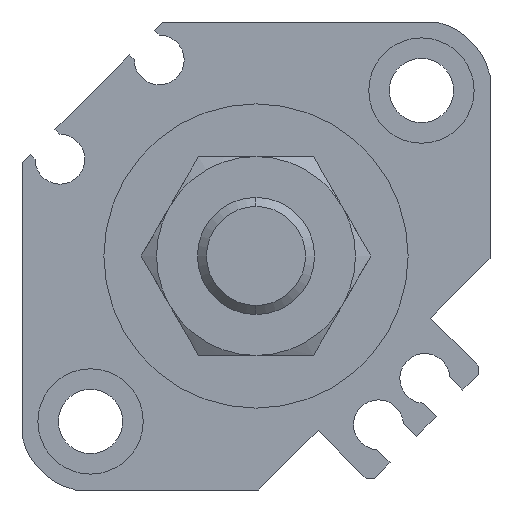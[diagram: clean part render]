
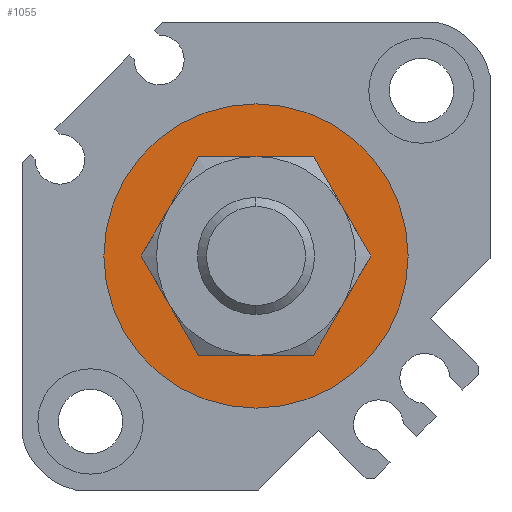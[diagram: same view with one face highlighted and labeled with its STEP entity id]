
A CAD part, left-side view. The second image highlights one B-rep face of the part: STEP entity #1055.
In plain terms, the highlighted planar face has unit normal (-1, 0, 0).
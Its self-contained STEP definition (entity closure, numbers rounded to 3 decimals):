
#51 = AXIS2_PLACEMENT_3D ( 'NONE', #4403, #4700, #613 ) ;
#54 = VERTEX_POINT ( 'NONE', #1445 ) ;
#86 = EDGE_CURVE ( 'NONE', #54, #4627, #2662, .T. ) ;
#602 = CIRCLE ( 'NONE', #3626, 7.5 ) ;
#613 = DIRECTION ( 'NONE',  ( 0., 0., -1. ) ) ;
#645 = CIRCLE ( 'NONE', #3414, 7.5 ) ;
#728 = FACE_BOUND ( 'NONE', #2997, .T. ) ;
#858 = CIRCLE ( 'NONE', #5339, 13. ) ;
#1055 = ADVANCED_FACE ( 'NONE', ( #3651, #728 ), #4845, .F. ) ;
#1137 = CARTESIAN_POINT ( 'NONE',  ( 1.9, 0., 13. ) ) ;
#1227 = EDGE_LOOP ( 'NONE', ( #4100, #2562 ) ) ;
#1389 = DIRECTION ( 'NONE',  ( 0., 0., -1. ) ) ;
#1445 = CARTESIAN_POINT ( 'NONE',  ( 1.9, 0., -13. ) ) ;
#1887 = DIRECTION ( 'NONE',  ( 0., 1., 0. ) ) ;
#1940 = CARTESIAN_POINT ( 'NONE',  ( 1.9, 0., 0. ) ) ;
#1944 = CARTESIAN_POINT ( 'NONE',  ( 1.9, 0., 0. ) ) ;
#1958 = EDGE_CURVE ( 'NONE', #4231, #3214, #602, .T. ) ;
#2075 = EDGE_CURVE ( 'NONE', #4627, #54, #858, .T. ) ;
#2103 = CARTESIAN_POINT ( 'NONE',  ( 1.9, 0., -7.5 ) ) ;
#2275 = CARTESIAN_POINT ( 'NONE',  ( 1.9, 0., 0. ) ) ;
#2311 = DIRECTION ( 'NONE',  ( 1., 0., 0. ) ) ;
#2562 = ORIENTED_EDGE ( 'NONE', *, *, #86, .F. ) ;
#2624 = EDGE_CURVE ( 'NONE', #3214, #4231, #645, .T. ) ;
#2645 = ORIENTED_EDGE ( 'NONE', *, *, #1958, .T. ) ;
#2662 = CIRCLE ( 'NONE', #51, 13. ) ;
#2735 = DIRECTION ( 'NONE',  ( 1., 0., 0. ) ) ;
#2827 = ORIENTED_EDGE ( 'NONE', *, *, #2624, .T. ) ;
#2997 = EDGE_LOOP ( 'NONE', ( #2827, #2645 ) ) ;
#3123 = DIRECTION ( 'NONE',  ( 1., 0., 0. ) ) ;
#3214 = VERTEX_POINT ( 'NONE', #3748 ) ;
#3414 = AXIS2_PLACEMENT_3D ( 'NONE', #5067, #2311, #4402 ) ;
#3604 = DIRECTION ( 'NONE',  ( 1., 0., 0. ) ) ;
#3626 = AXIS2_PLACEMENT_3D ( 'NONE', #2275, #3123, #1389 ) ;
#3651 = FACE_OUTER_BOUND ( 'NONE', #1227, .T. ) ;
#3748 = CARTESIAN_POINT ( 'NONE',  ( 1.9, 0., 7.5 ) ) ;
#4100 = ORIENTED_EDGE ( 'NONE', *, *, #2075, .F. ) ;
#4102 = DIRECTION ( 'NONE',  ( 0., 0., -1. ) ) ;
#4231 = VERTEX_POINT ( 'NONE', #2103 ) ;
#4402 = DIRECTION ( 'NONE',  ( 0., 0., -1. ) ) ;
#4403 = CARTESIAN_POINT ( 'NONE',  ( 1.9, 0., 0. ) ) ;
#4627 = VERTEX_POINT ( 'NONE', #1137 ) ;
#4700 = DIRECTION ( 'NONE',  ( 1., 0., 0. ) ) ;
#4845 = PLANE ( 'NONE',  #5008 ) ;
#5008 = AXIS2_PLACEMENT_3D ( 'NONE', #1940, #2735, #1887 ) ;
#5067 = CARTESIAN_POINT ( 'NONE',  ( 1.9, 0., 0. ) ) ;
#5339 = AXIS2_PLACEMENT_3D ( 'NONE', #1944, #3604, #4102 ) ;
